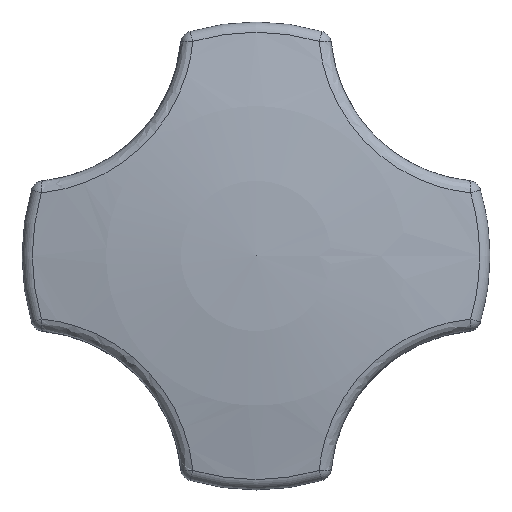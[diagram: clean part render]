
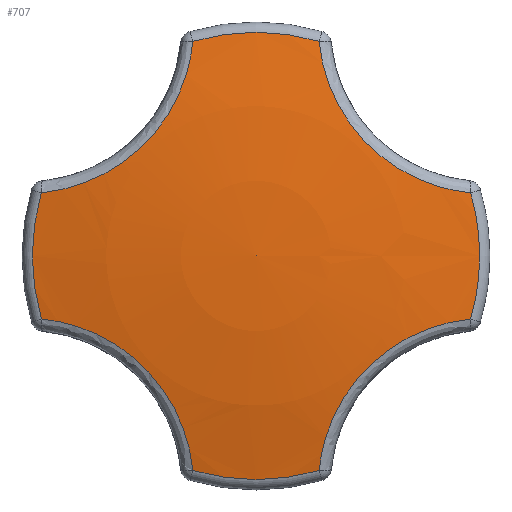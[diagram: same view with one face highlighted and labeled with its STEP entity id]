
A CAD part, top view. The second image highlights one B-rep face of the part: STEP entity #707.
In plain terms, the highlighted spherical face has radius 82 mm.
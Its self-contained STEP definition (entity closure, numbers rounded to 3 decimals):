
#23=B_SPLINE_CURVE_WITH_KNOTS('',3,(#1298,#1299,#1300,#1301,#1302,#1303),
 .UNSPECIFIED.,.F.,.F.,(4,1,1,4),(-2.376,-1.615,-1.107,
-0.599),.UNSPECIFIED.);
#25=B_SPLINE_CURVE_WITH_KNOTS('',3,(#1343,#1344,#1345,#1346,#1347,#1348),
 .UNSPECIFIED.,.F.,.F.,(4,1,1,4),(-2.376,-1.869,-1.361,
-0.599),.UNSPECIFIED.);
#27=B_SPLINE_CURVE_WITH_KNOTS('',3,(#1403,#1404,#1405,#1406,#1407,#1408),
 .UNSPECIFIED.,.F.,.F.,(4,1,1,4),(-2.376,-1.615,-1.107,
-0.599),.UNSPECIFIED.);
#29=B_SPLINE_CURVE_WITH_KNOTS('',3,(#1448,#1449,#1450,#1451,#1452,#1453),
 .UNSPECIFIED.,.F.,.F.,(4,1,1,4),(-2.376,-1.615,-1.107,
-0.599),.UNSPECIFIED.);
#142=FACE_OUTER_BOUND('',#198,.T.);
#198=EDGE_LOOP('',(#609,#610,#611,#612,#613,#614,#615,#616));
#235=CIRCLE('',#750,17.21);
#259=CIRCLE('',#783,17.21);
#280=CIRCLE('',#818,17.21);
#284=CIRCLE('',#827,17.21);
#290=VERTEX_POINT('',#1124);
#294=VERTEX_POINT('',#1132);
#297=VERTEX_POINT('',#1139);
#302=VERTEX_POINT('',#1152);
#308=VERTEX_POINT('',#1166);
#315=VERTEX_POINT('',#1187);
#321=VERTEX_POINT('',#1201);
#326=VERTEX_POINT('',#1217);
#365=EDGE_CURVE('',#308,#297,#235,.T.);
#389=EDGE_CURVE('',#326,#321,#259,.T.);
#413=EDGE_CURVE('',#315,#326,#23,.T.);
#417=EDGE_CURVE('',#321,#308,#25,.T.);
#424=EDGE_CURVE('',#302,#315,#280,.T.);
#431=EDGE_CURVE('',#294,#302,#27,.T.);
#435=EDGE_CURVE('',#297,#290,#29,.T.);
#438=EDGE_CURVE('',#290,#294,#284,.T.);
#609=ORIENTED_EDGE('',*,*,#389,.F.);
#610=ORIENTED_EDGE('',*,*,#413,.F.);
#611=ORIENTED_EDGE('',*,*,#424,.F.);
#612=ORIENTED_EDGE('',*,*,#431,.F.);
#613=ORIENTED_EDGE('',*,*,#438,.F.);
#614=ORIENTED_EDGE('',*,*,#435,.F.);
#615=ORIENTED_EDGE('',*,*,#365,.F.);
#616=ORIENTED_EDGE('',*,*,#417,.F.);
#662=SPHERICAL_SURFACE('',#833,82.);
#707=ADVANCED_FACE('',(#142),#662,.T.);
#750=AXIS2_PLACEMENT_3D('',#1174,#910,#911);
#783=AXIS2_PLACEMENT_3D('',#1225,#976,#977);
#818=AXIS2_PLACEMENT_3D('',#1363,#1056,#1057);
#827=AXIS2_PLACEMENT_3D('',#1462,#1080,#1081);
#833=AXIS2_PLACEMENT_3D('',#1469,#1092,#1093);
#910=DIRECTION('center_axis',(0.,0.,-1.));
#911=DIRECTION('ref_axis',(1.,0.,0.));
#976=DIRECTION('center_axis',(0.,0.,-1.));
#977=DIRECTION('ref_axis',(0.,1.,0.));
#1056=DIRECTION('center_axis',(0.,0.,-1.));
#1057=DIRECTION('ref_axis',(-1.,0.,0.));
#1080=DIRECTION('center_axis',(0.,0.,-1.));
#1081=DIRECTION('ref_axis',(0.,-1.,0.));
#1092=DIRECTION('center_axis',(0.,0.,1.));
#1093=DIRECTION('ref_axis',(1.,0.,0.));
#1124=CARTESIAN_POINT('',(4.854,-16.511,-1.826));
#1132=CARTESIAN_POINT('',(-4.853,-16.511,-1.826));
#1139=CARTESIAN_POINT('',(16.511,-4.853,-1.826));
#1152=CARTESIAN_POINT('',(-16.511,-4.854,-1.826));
#1166=CARTESIAN_POINT('',(16.511,4.854,-1.826));
#1174=CARTESIAN_POINT('Origin',(0.,0.,-1.826));
#1187=CARTESIAN_POINT('',(-16.511,4.853,-1.826));
#1201=CARTESIAN_POINT('',(4.853,16.511,-1.826));
#1217=CARTESIAN_POINT('',(-4.854,16.511,-1.826));
#1225=CARTESIAN_POINT('Origin',(0.,0.,-1.826));
#1298=CARTESIAN_POINT('Ctrl Pts',(-16.511,4.853,-1.826));
#1299=CARTESIAN_POINT('Ctrl Pts',(-14.002,5.095,-1.324));
#1300=CARTESIAN_POINT('Ctrl Pts',(-9.88,6.774,-0.79));
#1301=CARTESIAN_POINT('Ctrl Pts',(-6.001,11.526,-0.98));
#1302=CARTESIAN_POINT('Ctrl Pts',(-5.015,14.838,-1.492));
#1303=CARTESIAN_POINT('Ctrl Pts',(-4.854,16.511,-1.826));
#1343=CARTESIAN_POINT('Ctrl Pts',(4.853,16.511,-1.826));
#1344=CARTESIAN_POINT('Ctrl Pts',(5.015,14.839,-1.492));
#1345=CARTESIAN_POINT('Ctrl Pts',(6.001,11.526,-0.98));
#1346=CARTESIAN_POINT('Ctrl Pts',(9.88,6.774,-0.79));
#1347=CARTESIAN_POINT('Ctrl Pts',(14.002,5.095,-1.324));
#1348=CARTESIAN_POINT('Ctrl Pts',(16.511,4.854,-1.826));
#1363=CARTESIAN_POINT('Origin',(0.,0.,-1.826));
#1403=CARTESIAN_POINT('Ctrl Pts',(-4.853,-16.511,-1.826));
#1404=CARTESIAN_POINT('Ctrl Pts',(-5.095,-14.002,-1.324));
#1405=CARTESIAN_POINT('Ctrl Pts',(-6.774,-9.88,-0.79));
#1406=CARTESIAN_POINT('Ctrl Pts',(-11.526,-6.001,-0.98));
#1407=CARTESIAN_POINT('Ctrl Pts',(-14.838,-5.015,-1.492));
#1408=CARTESIAN_POINT('Ctrl Pts',(-16.511,-4.854,-1.826));
#1448=CARTESIAN_POINT('Ctrl Pts',(16.511,-4.853,-1.826));
#1449=CARTESIAN_POINT('Ctrl Pts',(14.002,-5.095,-1.324));
#1450=CARTESIAN_POINT('Ctrl Pts',(9.88,-6.774,-0.79));
#1451=CARTESIAN_POINT('Ctrl Pts',(6.001,-11.526,-0.98));
#1452=CARTESIAN_POINT('Ctrl Pts',(5.015,-14.838,-1.492));
#1453=CARTESIAN_POINT('Ctrl Pts',(4.854,-16.511,-1.826));
#1462=CARTESIAN_POINT('Origin',(0.,0.,-1.826));
#1469=CARTESIAN_POINT('Origin',(0.,0.,-82.));
